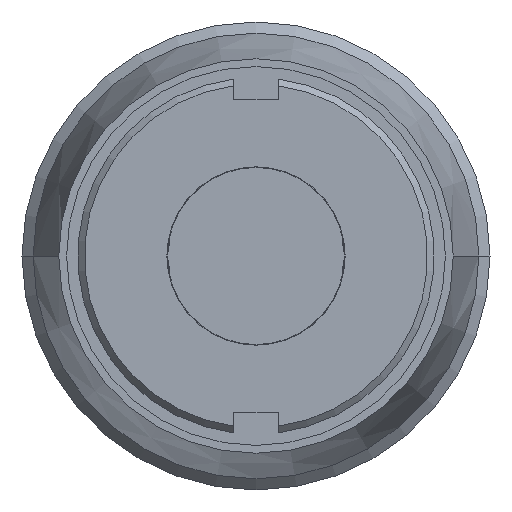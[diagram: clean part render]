
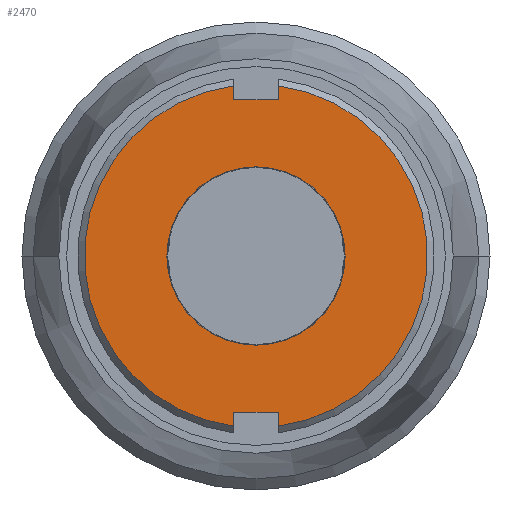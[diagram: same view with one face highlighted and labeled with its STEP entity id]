
A CAD part, left-side view. The second image highlights one B-rep face of the part: STEP entity #2470.
In plain terms, the highlighted planar face has unit normal (-1, 0, 0).
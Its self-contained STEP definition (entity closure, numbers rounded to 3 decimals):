
#1040=CARTESIAN_POINT('',(36.998,-73.291,0.));
#1050=VERTEX_POINT('',#1040);
#1080=CARTESIAN_POINT('',(36.998,-69.291,0.));
#1090=DIRECTION('',(1.,0.,0.));
#1100=DIRECTION('',(0.,1.,0.));
#1110=AXIS2_PLACEMENT_3D('',#1080,#1090,#1100);
#1120=CIRCLE('',#1110,4.);
#1130=CARTESIAN_POINT('',(36.998,-65.291,
0.));
#1140=VERTEX_POINT('',#1130);
#1150=EDGE_CURVE('',#1050,#1140,#1120,.T.);
#1690=CARTESIAN_POINT('',(36.998,-63.441,0.));
#1700=DIRECTION('',(-1.,0.,0.));
#1710=DIRECTION('',(0.,1.,0.));
#1720=AXIS2_PLACEMENT_3D('',#1690,#1700,#1710);
#1730=PLANE('',#1720);
#1740=CARTESIAN_POINT('',(36.998,-68.291,
7.));
#1750=DIRECTION('',(0.,0.,1.));
#1760=VECTOR('',#1750,1.);
#1770=LINE('',#1740,#1760);
#1780=CARTESIAN_POINT('',(36.998,-68.291,
7.));
#1790=VERTEX_POINT('',#1780);
#1800=CARTESIAN_POINT('',(36.998,-68.291,
7.635));
#1810=VERTEX_POINT('',#1800);
#1820=EDGE_CURVE('',#1790,#1810,#1770,.T.);
#1830=ORIENTED_EDGE('',*,*,#1820,.T.);
#1840=CARTESIAN_POINT('',(36.998,-70.291,
7.));
#1850=DIRECTION('',(0.,1.,0.));
#1860=VECTOR('',#1850,1.);
#1870=LINE('',#1840,#1860);
#1880=CARTESIAN_POINT('',(36.998,-70.291,
7.));
#1890=VERTEX_POINT('',#1880);
#1900=EDGE_CURVE('',#1890,#1790,#1870,.T.);
#1910=ORIENTED_EDGE('',*,*,#1900,.T.);
#1920=CARTESIAN_POINT('',(36.998,-70.291,
7.635));
#1930=DIRECTION('',(0.,0.,-1.));
#1940=VECTOR('',#1930,1.);
#1950=LINE('',#1920,#1940);
#1960=CARTESIAN_POINT('',(36.998,-70.291,
7.635));
#1970=VERTEX_POINT('',#1960);
#1980=EDGE_CURVE('',#1970,#1890,#1950,.T.);
#1990=ORIENTED_EDGE('',*,*,#1980,.T.);
#2000=CARTESIAN_POINT('',(36.998,-69.291,0.));
#2010=DIRECTION('',(-1.,-0.,0.));
#2020=DIRECTION('',(0.,-0.13,-0.992));
#2030=AXIS2_PLACEMENT_3D('',#2000,#2010,#2020);
#2040=CIRCLE('',#2030,7.7);
#2050=CARTESIAN_POINT('',(36.998,-70.291,
-7.635));
#2060=VERTEX_POINT('',#2050);
#2070=EDGE_CURVE('',#2060,#1970,#2040,.T.);
#2080=ORIENTED_EDGE('',*,*,#2070,.T.);
#2090=CARTESIAN_POINT('',(36.998,-70.291,
-7.));
#2100=DIRECTION('',(0.,0.,-1.));
#2110=VECTOR('',#2100,1.);
#2120=LINE('',#2090,#2110);
#2130=CARTESIAN_POINT('',(36.998,-70.291,
-7.));
#2140=VERTEX_POINT('',#2130);
#2150=EDGE_CURVE('',#2140,#2060,#2120,.T.);
#2160=ORIENTED_EDGE('',*,*,#2150,.T.);
#2170=CARTESIAN_POINT('',(36.998,-68.291,
-7.));
#2180=DIRECTION('',(0.,-1.,0.));
#2190=VECTOR('',#2180,1.);
#2200=LINE('',#2170,#2190);
#2210=CARTESIAN_POINT('',(36.998,-68.291,
-7.));
#2220=VERTEX_POINT('',#2210);
#2230=EDGE_CURVE('',#2220,#2140,#2200,.T.);
#2240=ORIENTED_EDGE('',*,*,#2230,.T.);
#2250=CARTESIAN_POINT('',(36.998,-68.291,
-7.635));
#2260=DIRECTION('',(0.,0.,1.));
#2270=VECTOR('',#2260,1.);
#2280=LINE('',#2250,#2270);
#2290=CARTESIAN_POINT('',(36.998,-68.291,
-7.635));
#2300=VERTEX_POINT('',#2290);
#2310=EDGE_CURVE('',#2300,#2220,#2280,.T.);
#2320=ORIENTED_EDGE('',*,*,#2310,.T.);
#2330=CARTESIAN_POINT('',(36.998,-69.291,0.));
#2340=DIRECTION('',(-1.,0.,0.));
#2350=DIRECTION('',(0.,0.13,0.992));
#2360=AXIS2_PLACEMENT_3D('',#2330,#2340,#2350);
#2370=CIRCLE('',#2360,7.7);
#2380=EDGE_CURVE('',#1810,#2300,#2370,.T.);
#2390=ORIENTED_EDGE('',*,*,#2380,.T.);
#2400=EDGE_LOOP('',(#2390,#2320,#2240,#2160,#2080,#1990,#1910,#1830));
#2410=FACE_OUTER_BOUND('',#2400,.T.);
#2420=EDGE_CURVE('',#1140,#1050,#1120,.T.);
#2430=ORIENTED_EDGE('',*,*,#2420,.T.);
#2440=ORIENTED_EDGE('',*,*,#1150,.T.);
#2450=EDGE_LOOP('',(#2440,#2430));
#2460=FACE_BOUND('',#2450,.T.);
#2470=ADVANCED_FACE('',(#2410,#2460),#1730,.T.);
